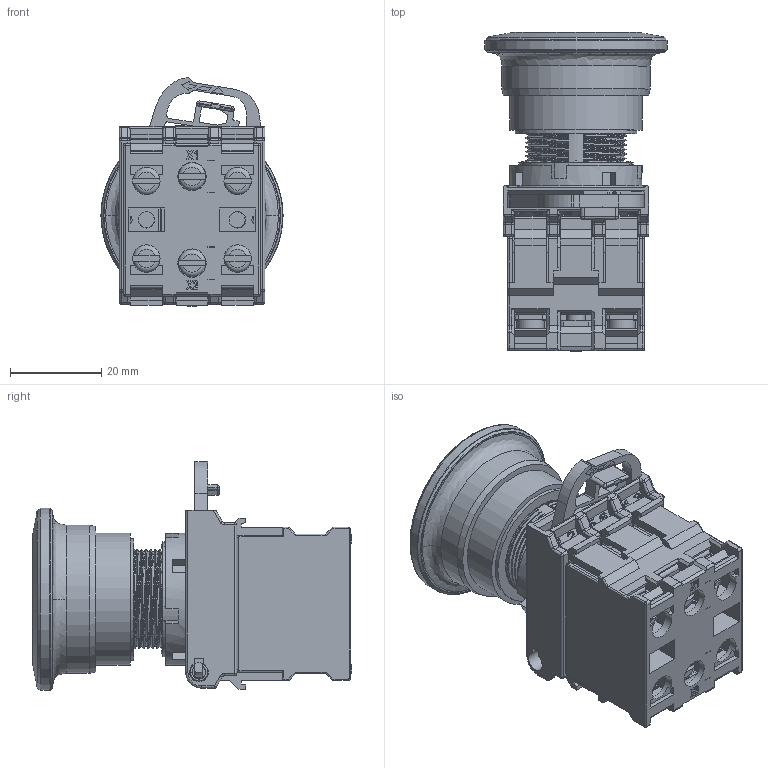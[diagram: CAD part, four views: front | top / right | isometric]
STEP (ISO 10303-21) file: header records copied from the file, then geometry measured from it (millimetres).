
FILE_DESCRIPTION(/* description */ ('CAx-IF Rec.Pracs.---Representation and Presentation of Product Manufacturing Information (PMI)---4.0---2014-10-13','CAx-IF Rec.Pracs.---3D Tessellated Geometry---0.4---2014-09-14','2;1'),/* implementation_level */ '2;1');
FILE_NAME(/* name */ '40蘑菇钮 _stp',/* time_stamp */ '2021-06-17T16:24:35+08:00',/* author */ (''),/* organization */ (''),/* preprocessor_version */ 'ST-DEVELOPER v16.7',/* originating_system */ $,/* authorisation */ $);
FILE_SCHEMA (('AP242_MANAGED_MODEL_BASED_3D_ENGINEERING_MIM_LF { 1 0 10303 442 20130219 1 4 }'));
Products named in the file (1): 40蘑菇钮 _stp
Bounding box: 40 x 70.02 x 50.22 mm (x, y, z)
Volume: 56349 mm3; surface area: 23673.9 mm2
Topology: 1 solids, 46 shells, 2213 faces, 5814 edges, 3706 vertices
Faces by surface type: plane 1575, cylinder 424, bspline 99, torus 53, sphere 50, cone 12
Full cylindrical faces by diameter (mm): 2 x1, 3.5 x2, 3.6 x1, 4 x2, 4.2 x3, 4.397 x2, 6 x10, 6.2 x2, 17 x1, 19 x1, 20.6 x1, 26.7 x1, 26.8 x1, 29 x2, 32.5 x1, 40 x1
Entity records: 87146 total; most frequent: CARTESIAN_POINT 18017, ORIENTED_EDGE 11362, DIRECTION 10501, EDGE_CURVE 5681, LINE 4385, VECTOR 4385, VERTEX_POINT 3655, AXIS2_PLACEMENT_3D 3058
